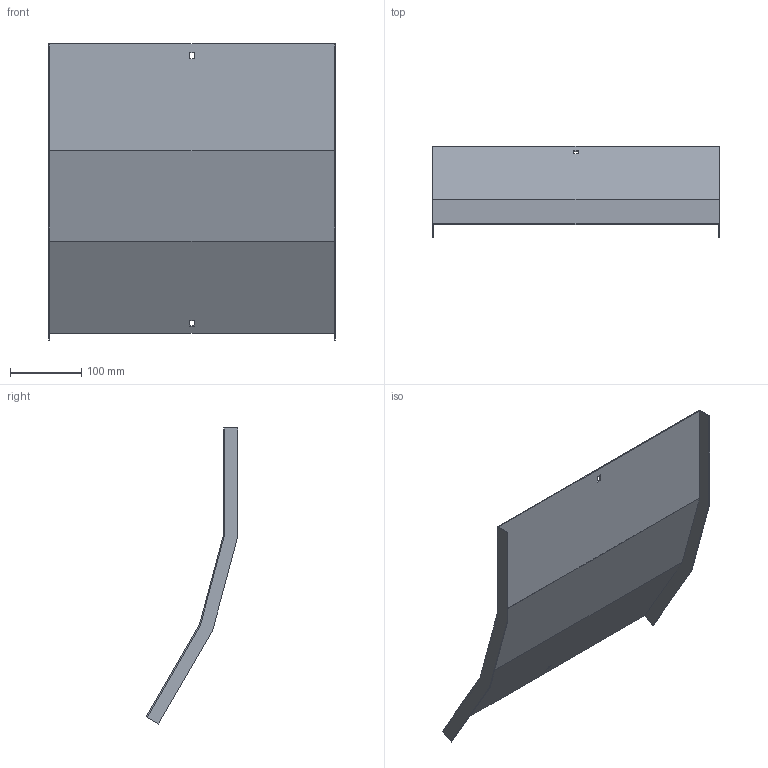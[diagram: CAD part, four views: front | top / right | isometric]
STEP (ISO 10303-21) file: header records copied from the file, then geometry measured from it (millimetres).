
FILE_DESCRIPTION (( 'STEP AP214' ), '1' );
FILE_NAME ('B2X32N5R400X.step', '2025-03-20T09:40:34', ( '' ), ( '' ), 'SwSTEP 2.0', 'SolidWorks 2023', '' );
FILE_SCHEMA (( 'AUTOMOTIVE_DESIGN' ));
Length unit declared in the file: millimetre
Products named in the file (1): B2X32N5R400X
Bounding box: 403 x 128.96 x 416.64 mm (x, y, z)
Volume: 284969.4 mm3; surface area: 382696.3 mm2
Topology: 1 solids, 1 shells, 26 faces, 72 edges, 48 vertices
Faces by surface type: plane 26
Entity records: 847 total; most frequent: CARTESIAN_POINT 147, ORIENTED_EDGE 144, DIRECTION 126, LINE 72, VECTOR 72, EDGE_CURVE 72, VERTEX_POINT 48, EDGE_LOOP 30
